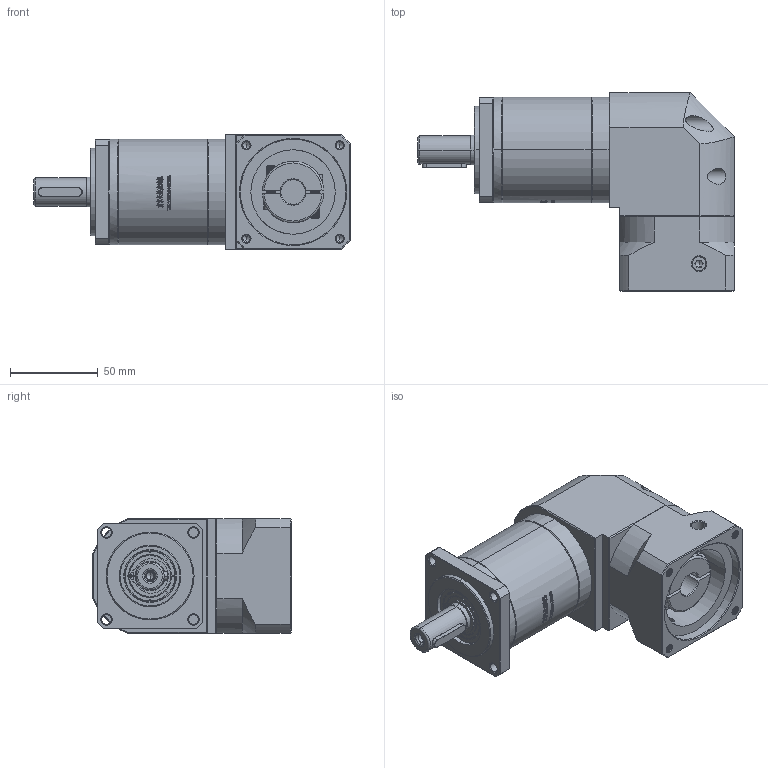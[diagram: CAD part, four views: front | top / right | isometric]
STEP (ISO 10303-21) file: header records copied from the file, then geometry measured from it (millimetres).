
FILE_DESCRIPTION (( 'STEP AP214' ), '1' );
FILE_NAME ('ZFR60-D16-L2-14-60-75-M5.STEP', '2022-04-20T09:07:32', ( '' ), ( 'Microsoft' ), 'SwSTEP 2.0', 'SolidWorks 2016', '' );
FILE_SCHEMA (( 'AUTOMOTIVE_DESIGN' ));
Length unit declared in the file: millimetre
Products named in the file (1): ZFR60-D16-L2-14-60-75-M5
Bounding box: 180 x 112.7 x 65 mm (x, y, z)
Volume: 602419.5 mm3; surface area: 83564.6 mm2
Topology: 5 solids, 6 shells, 2692 faces, 7344 edges, 4789 vertices
Faces by surface type: plane 1397, bspline 579, cylinder 402, cone 290, torus 24
Entity records: 149200 total; most frequent: CARTESIAN_POINT 57053, ORIENTED_EDGE 14644, DIRECTION 10546, EDGE_CURVE 7322, VERTEX_POINT 4789, VECTOR 4400, LINE 4400, AXIS2_PLACEMENT_3D 3073
